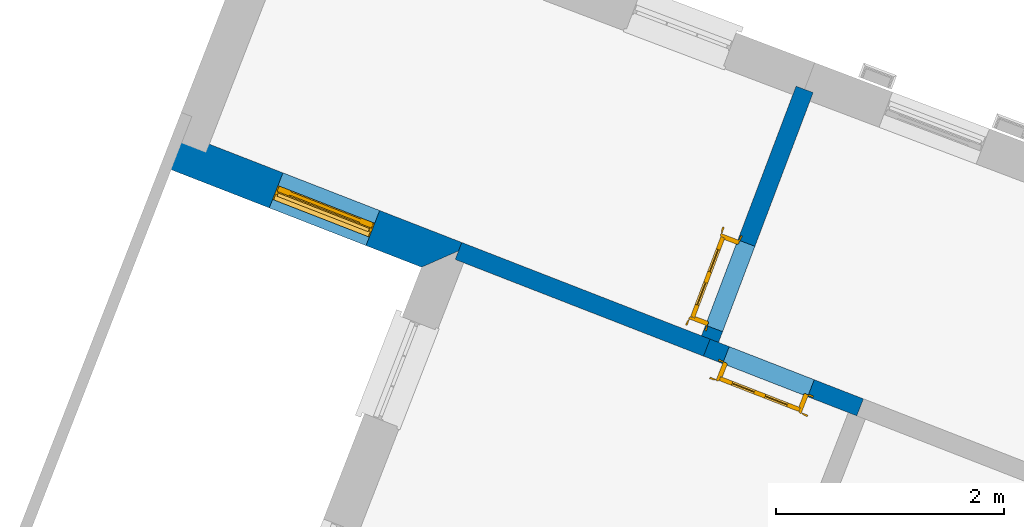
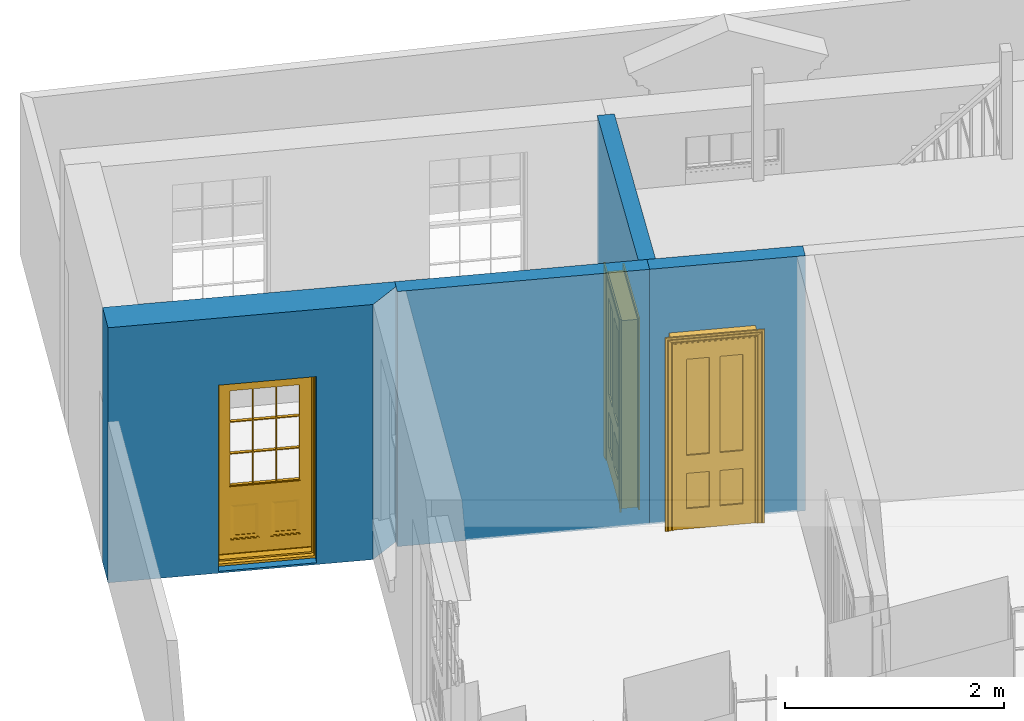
# One storey, part 5 of 10: 4 walls, 3 doors, 3 openings.
"""IFC4 building model written with IfcOpenShell, lengths in metres."""

import ifcopenshell
import ifcopenshell.guid

model = None  # the IFC model being written
_history = None  # IfcOwnerHistory: only IFC2X3 demands one
_inside = {}  # id of a spatial element -> (the spatial element, [elements in it])
_under = {}  # id of a project, library or spatial element -> (it, [spatial elements below it])
_declared = {}  # id of a project -> (the project, [libraries it declares])
_typed = {}  # id of a type object -> (the type object, [elements of that type])
_made_of = {}  # id of a material, layer set ... -> (it, [elements and type objects made of it])


def new_model(schema):
    """Start an empty IFC model of exactly this schema.

    Asked for "IFC4X3", IfcOpenShell would pick the latest addendum, in which some entities
    have other attributes; the version numbers below select the first issue.
    IFC2X3 requires an IfcOwnerHistory on every rooted entity: one is made here for all.
    """
    global model, _history
    if schema == "IFC4X3":
        model = ifcopenshell.file(schema_version=(4, 3, 0, 0))
    else:
        model = ifcopenshell.file(schema=schema)
    _inside.clear()
    _under.clear()
    _declared.clear()
    _typed.clear()
    _made_of.clear()
    _history = None
    if model.schema == "IFC2X3":
        org = make("IfcOrganization", Name="unknown")
        user = make(
            "IfcPersonAndOrganization",
            ThePerson=make("IfcPerson", FamilyName="unknown"),
            TheOrganization=org,
        )
        app = make(
            "IfcApplication",
            ApplicationDeveloper=org,
            Version="unknown",
            ApplicationFullName="unknown",
            ApplicationIdentifier="unknown",
        )
        _history = make(
            "IfcOwnerHistory",
            OwningUser=user,
            OwningApplication=app,
            ChangeAction="ADDED",
            CreationDate=0,
        )
    return model


def make(cls, **values):
    """One entity of the class cls with the attributes given. An attribute that is None is left unset."""
    return model.create_entity(
        cls, **{name: value for name, value in values.items() if value is not None}
    )


def rooted(cls, **values):
    """An entity with a GlobalId (a new one), such as an element, a storey or a relation."""
    return make(cls, GlobalId=ifcopenshell.guid.new(), OwnerHistory=_history, **values)


def si_unit(unit_type, name, prefix=None):
    """IfcSIUnit, for example si_unit("LENGTHUNIT", "METRE", prefix="MILLI")."""
    return make("IfcSIUnit", UnitType=unit_type, Prefix=prefix, Name=name)


def assignment(units):
    """IfcUnitAssignment: the units of a project."""
    return None if units is None else make("IfcUnitAssignment", Units=units)


def point(xyz):
    """IfcCartesianPoint."""
    return None if xyz is None else make("IfcCartesianPoint", Coordinates=xyz)


def direction(xyz):
    """IfcDirection."""
    return None if xyz is None else make("IfcDirection", DirectionRatios=xyz)


def frame(location, z_axis=None, x_axis=None):
    """IfcAxis2Placement3D, a coordinate frame: its origin and axes. An axis left out is left unset."""
    return make(
        "IfcAxis2Placement3D",
        Location=point(location),
        Axis=direction(z_axis),
        RefDirection=direction(x_axis),
    )


def origin():
    """The frame at (0, 0, 0) with its axes left unset."""
    return frame((0.0, 0.0, 0.0))


def origin_with_axes():
    """The frame at (0, 0, 0) with the z axis (0, 0, 1) and the x axis (1, 0, 0) written out."""
    return frame((0.0, 0.0, 0.0), z_axis=(0.0, 0.0, 1.0), x_axis=(1.0, 0.0, 0.0))


def place(relative_to, where):
    """IfcLocalPlacement: puts the frame where relative to a parent placement (None: the world)."""
    return make(
        "IfcLocalPlacement", PlacementRelTo=relative_to, RelativePlacement=where
    )


def context(
    kind, dimensions, precision=None, world=None, true_north=None, identifier=None
):
    """IfcGeometricRepresentationContext, for example the 3D "Model" context."""
    return make(
        "IfcGeometricRepresentationContext",
        ContextIdentifier=identifier,
        ContextType=kind,
        CoordinateSpaceDimension=dimensions,
        Precision=precision,
        WorldCoordinateSystem=world,
        TrueNorth=true_north,
    )


def subcontext(parent, identifier, kind, view, scale=None):
    """IfcGeometricRepresentationSubContext, for example "Body" below "Model"."""
    return make(
        "IfcGeometricRepresentationSubContext",
        ContextIdentifier=identifier,
        ContextType=kind,
        ParentContext=parent,
        TargetScale=scale,
        TargetView=view,
    )


def project(units=None, contexts=None):
    """IfcProject with its units and contexts."""
    return rooted(
        "IfcProject",
        Name="project",
        RepresentationContexts=contexts,
        UnitsInContext=assignment(units),
    )


def spatial(cls, under=None, at=None, **own):
    """A site, building, storey or space (cls), placed at a placement, below another one or the project."""
    s = rooted(cls, ObjectPlacement=at, **own)
    if under is not None:
        _under.setdefault(under.id(), (under, []))[1].append(s)
    return s


def polyline(points):
    """IfcPolyline through the points."""
    return make("IfcPolyline", Points=[point(p) for p in points])


def outline(outer, holes=None, kind="AREA"):
    """IfcArbitraryClosedProfileDef: a profile drawn as a closed curve; with holes, ...WithVoids."""
    if holes is None:
        return make("IfcArbitraryClosedProfileDef", ProfileType=kind, OuterCurve=outer)
    return make(
        "IfcArbitraryProfileDefWithVoids",
        ProfileType=kind,
        OuterCurve=outer,
        InnerCurves=holes,
    )


def extrude(swept, where, along, depth):
    """IfcExtrudedAreaSolid: the profile swept, set in the frame where, extruded along a direction by depth."""
    return make(
        "IfcExtrudedAreaSolid",
        SweptArea=swept,
        Position=where,
        ExtrudedDirection=direction(along),
        Depth=depth,
    )


def faces_of(points, faces, orient=None, outer=None):
    """IfcFace entities. A face is a list of loops; a loop is a list of indices into points, from 0.

    orient and outer hold one flag for each loop. By default every Orientation is true, the
    first loop of a face is its IfcFaceOuterBound and the others are IfcFaceBound.
    """
    made = []
    for i, loops in enumerate(faces):
        bounds = []
        for j, loop in enumerate(loops):
            is_outer = j == 0 if outer is None else outer[i][j]
            bounds.append(
                make(
                    "IfcFaceOuterBound" if is_outer else "IfcFaceBound",
                    Bound=make("IfcPolyLoop", Polygon=[points[k] for k in loop]),
                    Orientation=True if orient is None else orient[i][j],
                )
            )
        made.append(make("IfcFace", Bounds=bounds))
    return made


def faceted_brep(points, faces, orient=None, outer=None, voids=None):
    """IfcFacetedBrep: a solid bounded by flat faces; with voids (closed shells), ...WithVoids."""
    shared = [point(p) for p in points]
    hull = make("IfcClosedShell", CfsFaces=faces_of(shared, faces, orient, outer))
    if voids is None:
        return make("IfcFacetedBrep", Outer=hull)
    return make(
        "IfcFacetedBrepWithVoids",
        Outer=hull,
        Voids=[
            make(cls, CfsFaces=faces_of(shared, fs, o, b)) for cls, fs, o, b in voids
        ],
    )


def shape(context_of_items, identifier, shape_type, items):
    """IfcShapeRepresentation: the items that make up one representation, for example the "Body"."""
    return make(
        "IfcShapeRepresentation",
        ContextOfItems=context_of_items,
        RepresentationIdentifier=identifier,
        RepresentationType=shape_type,
        Items=items,
    )


def source(mapping_origin, context_of_items, identifier, shape_type, items):
    """IfcRepresentationMap: a shape defined once, which mapped items show again and again."""
    return make(
        "IfcRepresentationMap",
        MappingOrigin=mapping_origin,
        MappedRepresentation=shape(context_of_items, identifier, shape_type, items),
    )


def transform(
    local_origin,
    x_axis=None,
    y_axis=None,
    z_axis=None,
    scale=None,
    scale2=None,
    scale3=None,
    uniform=True,
):
    """IfcCartesianTransformationOperator3D, or its non-uniform kind. x_axis, y_axis, z_axis: its Axis1, 2, 3."""
    if uniform:
        return make(
            "IfcCartesianTransformationOperator3D",
            Axis1=direction(x_axis),
            Axis2=direction(y_axis),
            LocalOrigin=point(local_origin),
            Scale=scale,
            Axis3=direction(z_axis),
        )
    return make(
        "IfcCartesianTransformationOperator3DnonUniform",
        Axis1=direction(x_axis),
        Axis2=direction(y_axis),
        LocalOrigin=point(local_origin),
        Scale=scale,
        Axis3=direction(z_axis),
        Scale2=scale2,
        Scale3=scale3,
    )


def mapped(mapping_source, mapping_target):
    """IfcMappedItem: shows the shape of a source again, moved by a transform."""
    return make(
        "IfcMappedItem", MappingSource=mapping_source, MappingTarget=mapping_target
    )


def material(Name=None, Category=None):
    """IfcMaterial."""
    return make("IfcMaterial", Name=Name, Category=Category)


def layer(
    of_material, thickness, ventilated=None, Name=None, Category=None, Priority=None
):
    """IfcMaterialLayer: one layer of a wall or slab, of a material (None: an air gap)."""
    return make(
        "IfcMaterialLayer",
        Material=of_material,
        LayerThickness=thickness,
        IsVentilated=ventilated,
        Name=Name,
        Category=Category,
        Priority=Priority,
    )


def layer_set(layers, Name=None):
    """IfcMaterialLayerSet."""
    return make("IfcMaterialLayerSet", MaterialLayers=layers, LayerSetName=Name)


def layer_usage(for_layer_set, set_direction, sense, offset, extent=None):
    """IfcMaterialLayerSetUsage: how a layer set lies in its element."""
    return make(
        "IfcMaterialLayerSetUsage",
        ForLayerSet=for_layer_set,
        LayerSetDirection=set_direction,
        DirectionSense=sense,
        OffsetFromReferenceLine=offset,
        ReferenceExtent=extent,
    )


def made_of(thing, what):
    """Note that an element or type object is made of a material, layer set ...; save() writes the relation."""
    if what is not None:
        _made_of.setdefault(what.id(), (what, []))[1].append(thing)
    return thing


def type_object(cls, material=None, **own):
    """A type object (cls), such as IfcWallType, which elements share."""
    return made_of(rooted(cls, **own), material)


def type_shapes(of_type, sources):
    """Give a type object the sources (RepresentationMaps) that its elements show as mapped items."""
    of_type.RepresentationMaps = sources


def element(
    cls,
    number,
    at=None,
    inside=None,
    cuts=None,
    type_object=None,
    material=None,
    context=None,
    identifier="Body",
    shape_type=None,
    held_by="IfcProductDefinitionShape",
    body=None,
    shapes=None,
    **own,
):
    """One element of the class cls, such as IfcWall. Its Tag is "e" and its number.

    at: its placement. inside: the storey or other place that contains it. cuts: it is an
    opening in that element (IfcRelVoidsElement). A single representation is given by context,
    identifier, shape_type and body (its items); several are given by shapes. held_by: the class
    of the entity that holds the representations. save() writes the other relations.
    """
    e = rooted(cls, Tag="e%d" % number, ObjectPlacement=at, **own)
    if body is not None:
        shapes = [shape(context, identifier, shape_type, body)]
    if shapes is not None:
        e.Representation = make(held_by, Representations=shapes)
    if inside is not None:
        _inside.setdefault(inside.id(), (inside, []))[1].append(e)
    if cuts is not None:
        rooted(
            "IfcRelVoidsElement", RelatingBuildingElement=cuts, RelatedOpeningElement=e
        )
    if type_object is not None:
        _typed.setdefault(type_object.id(), (type_object, []))[1].append(e)
    return made_of(e, material)


def fill(opening, filler):
    """IfcRelFillsElement: the door or window that sits in an opening."""
    return rooted(
        "IfcRelFillsElement",
        RelatingOpeningElement=opening,
        RelatedBuildingElement=filler,
    )


def aggregate(whole, parts):
    """IfcRelAggregates: a whole, such as a stair, and the parts it consists of."""
    return rooted("IfcRelAggregates", RelatingObject=whole, RelatedObjects=parts)


def save(model, path):
    """Write the relations noted so far, then the file.

    IfcRelAggregates (storeys below a building ...), IfcRelContainedInSpatialStructure (elements
    in a storey), IfcRelDefinesByType, IfcRelAssociatesMaterial and IfcRelDeclares: one each for
    every whole, place, type object, material and project.
    """
    for whole, parts in _under.values():
        aggregate(whole, parts)
    for where, things in _inside.values():
        rooted(
            "IfcRelContainedInSpatialStructure",
            RelatedElements=things,
            RelatingStructure=where,
        )
    for kind, things in _typed.values():
        rooted("IfcRelDefinesByType", RelatedObjects=things, RelatingType=kind)
    for what, things in _made_of.values():
        rooted("IfcRelAssociatesMaterial", RelatedObjects=things, RelatingMaterial=what)
    for by, libraries in _declared.values():
        rooted("IfcRelDeclares", RelatingContext=by, RelatedDefinitions=libraries)
    model.write(path)


model = new_model("IFC4")

# Units and contexts
model_context = context("Model", 3, world=origin_with_axes())
body_context = subcontext(model_context, "Body", "Model", "MODEL_VIEW")
ifc_project = project(units=[si_unit("PLANEANGLEUNIT", "RADIAN"), si_unit("MASSUNIT", "GRAM", prefix="KILO"), si_unit("FORCEUNIT", "NEWTON", prefix="KILO"), si_unit("LENGTHUNIT", "METRE"), si_unit("AREAUNIT", "SQUARE_METRE"), si_unit("VOLUMEUNIT", "CUBIC_METRE")], contexts=[model_context, model_context])

# Sites, building, storey
site_1_placement = place(None, origin_with_axes())
site_1 = spatial("IfcSite", under=ifc_project, at=site_1_placement, Name="Tamar")
site_2_placement = place(site_1_placement, origin_with_axes())
site_2 = spatial("IfcSite", under=site_1, at=site_2_placement, Name="Site plot-8", CompositionType="ELEMENT")
building_placement = place(None, origin_with_axes())
building = spatial("IfcBuilding", under=site_2, at=building_placement, Name="Building plot-8", CompositionType="ELEMENT")
storey_placement = place(None, frame((0.0, 0.0, 26.0), z_axis=(0.0, 0.0, 1.0), x_axis=(1.0, 0.0, 0.0)))
storey = spatial("IfcBuildingStorey", under=building, at=storey_placement, Name="plot-8 0", CompositionType="ELEMENT", Elevation=26.0)

# Wall, opening, door
ifc_material_1 = material(Name="Masonry")
ifc_layer_1 = layer(ifc_material_1, 0.33, ventilated=False)
ifc_layer_set_1 = layer_set([ifc_layer_1], Name="exterior_0.08_0.25")
ifc_layer_usage_1 = layer_usage(ifc_layer_set_1, "AXIS2", "POSITIVE", -0.25)
wall_type_1 = type_object("IfcWallType", Name="exterior_0.08_0.25", PredefinedType="SOLIDWALL", material=ifc_layer_set_1)
wall_1_placement = place(storey_placement, frame((221.692269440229, 310.215266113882, 0.0), z_axis=(0.0, 0.0, 1.0), x_axis=(0.93186385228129, -0.362808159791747, 0.0)))
wall_1 = element("IfcWall", 1, at=wall_1_placement, inside=storey, type_object=wall_type_1, material=ifc_layer_usage_1, Name="exterior", context=body_context, shape_type="SweptSolid", body=[
    extrude(outline(polyline([(-0.249999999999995, 0.0799999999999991), (-0.249999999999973, -0.250000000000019), (2.20498617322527, -0.25000000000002), (2.53498617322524, 0.0800000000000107), (-0.249999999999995, 0.0799999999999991)])), origin_with_axes(), (0.0, 0.0, 1.0), 2.85),
])
opening_1_placement = place(wall_1_placement, frame((0.772493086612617, 0.0, 0.0199999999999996)))
opening_1 = element("IfcOpeningElement", 2, at=opening_1_placement, cuts=wall_1, Name="My Opening", ObjectType="Opening", context=body_context, shape_type="SweptSolid", body=[
    extrude(outline(polyline([(0.0, -0.270000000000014), (0.91000000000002, -0.270000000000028), (0.910000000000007, 1.10000000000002), (-1.22124532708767e-14, 1.10000000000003), (0.0, -0.270000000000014)])), origin_with_axes(), (0.0, 0.0, 1.0), 2.08),
])
door_type_1 = type_object("IfcDoorType", Name="door_panelled", OperationType="SINGLE_SWING_LEFT", PredefinedType="NOTDEFINED")
shared_shape_1 = source(origin(), body_context, "Body", "Brep", [
    faceted_brep([(0.545, 0.195, 0.265), (0.745, 0.195, 0.265), (0.745, 0.2, 0.265), (0.545, 0.2, 0.265), (0.745, 0.2, 0.58), (0.545, 0.2, 0.58), (0.545, 0.195, 0.58), (0.515, 0.19, 0.235), (0.775, 0.19, 0.235), (0.745, 0.195, 0.58), (0.515, 0.19, 0.61), (0.515, 0.185, 0.235), (0.775, 0.185, 0.235), (0.775, 0.19, 0.61), (0.515, 0.185, 0.61), (0.785, 0.185, 0.225), (0.505, 0.185, 0.225), (0.775, 0.185, 0.61), (0.505, 0.185, 0.62), (0.785, 0.185, 0.62), (0.505, 0.18, 0.225), (0.785, 0.18, 0.225), (0.505, 0.18, 0.62), (0.785, 0.18, 0.62), (0.883, 0.18, 0.075), (0.898, 0.18, 0.075), (0.405, 0.18, 0.62), (0.405, 0.18, 0.225), (0.027, 0.18, 0.075), (0.785, 0.18, 0.82), (0.125, 0.18, 0.82), (0.405, 0.185, 0.62), (0.405, 0.185, 0.225), (0.898, 0.18, 2.068), (0.027, 0.17, 0.075), (0.883, 0.17, 0.075), (0.125, 0.18, 0.225), (0.012, 0.18, 0.075), (0.785, 0.19, 0.82), (0.125, 0.19, 0.82), (0.125, 0.18, 0.62), (0.125, 0.185, 0.62), (0.395, 0.185, 0.61), (0.395, 0.185, 0.235), (0.125, 0.185, 0.225), (0.785, 0.18, 1.895), (0.027, 0.14, 0.045), (0.883, 0.14, 0.045), (0.558333, 0.19, 0.83), (0.351667, 0.19, 0.83), (0.125, 0.18, 1.895), (0.125, 0.19, 1.895), (0.785, 0.19, 1.895), (0.012, 0.18, 2.068), (0.135, 0.185, 0.61), (0.395, 0.19, 0.61), (0.395, 0.19, 0.235), (0.135, 0.185, 0.235), (0.027, 0.14, 0.027), (0.883, 0.14, 0.027), (0.568333, 0.19, 0.83), (0.558333, 0.22, 0.83), (0.351667, 0.22, 0.83), (0.341667, 0.19, 0.83), (0.135, 0.19, 1.185), (0.135, 0.19, 1.53), (0.775, 0.19, 1.53), (0.775, 0.19, 1.185), (0.135, 0.19, 0.61), (0.365, 0.195, 0.58), (0.365, 0.195, 0.265), (0.135, 0.19, 0.235), (0.568333, 0.19, 1.175), (0.558333, 0.19, 1.175), (0.775, 0.19, 0.83), (0.558333, 0.22, 1.175), (0.785, 0.22, 0.82), (0.125, 0.22, 0.82), (0.351667, 0.22, 1.175), (0.351667, 0.19, 1.175), (0.341667, 0.19, 1.175), (0.135, 0.19, 0.83), (0.135, 0.19, 1.175), (0.135, 0.22, 1.185), (0.135, 0.22, 1.53), (0.135, 0.19, 1.54), (0.351667, 0.19, 1.885), (0.558333, 0.19, 1.885), (0.775, 0.22, 1.53), (0.775, 0.22, 1.185), (0.775, 0.19, 1.175), (0.775, 0.19, 1.54), (0.165, 0.195, 0.58), (0.365, 0.2, 0.58), (0.365, 0.2, 0.265), (0.165, 0.195, 0.265), (0.568333, 0.22, 0.83), (0.568333, 0.22, 1.175), (0.568333, 0.19, 1.185), (0.558333, 0.19, 1.185), (0.775, 0.22, 0.83), (0.785, 0.23, 0.82), (0.125, 0.23, 0.82), (0.341667, 0.22, 0.83), (0.341667, 0.22, 1.175), (0.351667, 0.19, 1.185), (0.341667, 0.19, 1.185), (0.135, 0.22, 0.83), (0.341667, 0.22, 1.185), (0.125, 0.22, 1.895), (0.341667, 0.22, 1.53), (0.341667, 0.19, 1.53), (0.135, 0.19, 1.885), (0.341667, 0.19, 1.54), (0.341667, 0.19, 1.885), (0.558333, 0.22, 1.885), (0.351667, 0.22, 1.885), (0.568333, 0.19, 1.885), (0.785, 0.22, 1.895), (0.568333, 0.22, 1.185), (0.568333, 0.19, 1.53), (0.568333, 0.22, 1.53), (0.568333, 0.19, 1.54), (0.775, 0.19, 1.885), (0.165, 0.2, 0.58), (0.165, 0.2, 0.265), (0.775, 0.22, 1.175), (0.558333, 0.19, 1.53), (0.351667, 0.22, 1.185), (0.558333, 0.22, 1.185), (0.505, 0.23, 0.62), (0.405, 0.23, 0.62), (0.125, 0.23, 1.895), (0.785, 0.23, 1.895), (0.351667, 0.19, 1.53), (0.135, 0.22, 1.175), (0.135, 0.22, 1.54), (0.341667, 0.22, 1.54), (0.135, 0.22, 1.885), (0.351667, 0.19, 1.54), (0.558333, 0.22, 1.54), (0.558333, 0.19, 1.54), (0.351667, 0.22, 1.54), (0.775, 0.22, 1.54), (0.568333, 0.22, 1.54), (0.775, 0.22, 1.885), (0.558333, 0.22, 1.53), (0.405, 0.23, 0.225), (0.505, 0.23, 0.225), (0.125, 0.23, 0.62), (0.785, 0.23, 0.62), (0.012, 0.23, 2.068), (0.898, 0.23, 2.068), (0.351667, 0.22, 1.53), (0.341667, 0.22, 1.885), (0.568333, 0.22, 1.885), (0.405, 0.225, 0.225), (0.405, 0.225, 0.62), (0.505, 0.225, 0.62), (0.505, 0.225, 0.225), (0.898, 0.23, 0.027), (0.012, 0.23, 0.027), (0.125, 0.225, 0.62), (0.785, 0.225, 0.62), (0.395, 0.225, 0.235), (0.395, 0.225, 0.61), (0.125, 0.23, 0.225), (0.125, 0.225, 0.225), (0.515, 0.225, 0.61), (0.515, 0.225, 0.235), (0.785, 0.23, 0.225), (0.785, 0.225, 0.225), (0.135, 0.225, 0.61), (0.775, 0.225, 0.61), (0.135, 0.225, 0.235), (0.395, 0.22, 0.235), (0.395, 0.22, 0.61), (0.515, 0.22, 0.61), (0.515, 0.22, 0.235), (0.775, 0.225, 0.235), (0.135, 0.22, 0.61), (0.775, 0.22, 0.61), (0.135, 0.22, 0.235), (0.365, 0.215, 0.265), (0.365, 0.215, 0.58), (0.545, 0.215, 0.58), (0.545, 0.215, 0.265), (0.775, 0.22, 0.235), (0.165, 0.215, 0.58), (0.745, 0.215, 0.58), (0.165, 0.215, 0.265), (0.365, 0.21, 0.58), (0.365, 0.21, 0.265), (0.545, 0.21, 0.58), (0.545, 0.21, 0.265), (0.745, 0.215, 0.265), (0.165, 0.21, 0.58), (0.745, 0.21, 0.58), (0.165, 0.21, 0.265), (0.745, 0.21, 0.265), (0.885, 0.178, 0.025), (0.025, 0.178, 0.025), (0.025, 0.15, 0.025), (0.885, 0.15, 0.025), (0.9, 0.23, 0.025), (0.01, 0.23, 0.025), (0.9, 0.178, 0.025), (0.91, 0.23, 0.0), (0.0, 0.23, 0.0), (0.01, 0.178, 0.025), (0.9, 0.178, 2.07), (0.9, 0.23, 2.07), (0.885, 0.178, 2.055), (0.91, 0.23, 2.08), (0.01, 0.23, 2.07), (0.0, 0.23, 2.08), (0.01, 0.178, 2.07), (0.025, 0.178, 2.055), (0.0, 0.1, 2.08), (0.91, 0.1, 2.08), (0.01, 0.1, 2.07), (0.9, 0.1, 2.07), (0.01, 0.15, 2.07), (0.9, 0.15, 2.07), (0.0, 0.1, 0.0), (0.91, 0.1, 0.0), (0.01, 0.1, 0.025), (0.9, 0.1, 0.025), (0.01, 0.15, 0.025), (0.025, 0.15, 2.055), (0.9, 0.15, 0.025), (0.885, 0.15, 2.055), (0.898, 0.18, 0.027), (0.012, 0.18, 0.027), (0.883, 0.18, 0.027), (0.027, 0.18, 0.027)], [[[0, 1, 2, 3]], [[2, 4, 5, 3]], [[0, 3, 5, 6]], [[1, 0, 7, 8]], [[9, 4, 2, 1]], [[9, 6, 5, 4]], [[0, 6, 10, 7]], [[8, 7, 11, 12]], [[8, 13, 9, 1]], [[13, 10, 6, 9]], [[7, 10, 14, 11]], [[15, 12, 11, 16]], [[12, 17, 13, 8]], [[17, 14, 10, 13]], [[18, 16, 11, 14]], [[15, 19, 17, 12]], [[15, 16, 20, 21]], [[14, 17, 19, 18]], [[16, 18, 22, 20]], [[21, 23, 19, 15]], [[24, 25, 21, 20]], [[23, 22, 18, 19]], [[20, 22, 26, 27]], [[23, 21, 25]], [[28, 24, 20, 27]], [[22, 23, 29]], [[29, 30, 26, 22]], [[27, 26, 31, 32]], [[23, 25, 33, 29]], [[34, 35, 24, 28]], [[28, 27, 36, 37]], [[38, 39, 30, 29]], [[26, 30, 40]], [[26, 40, 41, 31]], [[42, 43, 32, 31]], [[32, 44, 36, 27]], [[33, 45, 29]], [[46, 47, 35, 34]], [[36, 40, 37]], [[39, 38, 48, 49]], [[50, 30, 39, 51]], [[29, 45, 52, 38]], [[53, 37, 40, 30]], [[44, 41, 40, 36]], [[31, 41, 54, 42]], [[43, 42, 55, 56]], [[57, 44, 32, 43]], [[50, 45, 33, 53]], [[47, 46, 58, 59]], [[60, 48, 38]], [[49, 48, 61, 62]], [[49, 63, 39]], [[50, 53, 30]], [[51, 39, 64, 65]], [[45, 50, 51, 52]], [[66, 67, 38, 52]], [[57, 54, 41, 44]], [[42, 54, 68, 55]], [[56, 55, 69, 70]], [[56, 71, 57, 43]], [[60, 72, 73, 48]], [[60, 38, 74]], [[48, 73, 75, 61]], [[76, 77, 62, 61]], [[62, 78, 79, 49]], [[49, 79, 80, 63]], [[63, 81, 39]], [[82, 64, 39]], [[65, 64, 83, 84]], [[85, 51, 65]], [[52, 51, 86, 87]], [[88, 89, 67, 66]], [[90, 38, 67]], [[91, 66, 52]], [[71, 68, 54, 57]], [[55, 68, 92, 69]], [[69, 93, 94, 70]], [[70, 95, 71, 56]], [[96, 97, 72, 60]], [[73, 72, 98, 99]], [[74, 38, 90]], [[100, 96, 60, 74]], [[75, 73, 79, 78]], [[61, 75, 97, 96]], [[101, 102, 77, 76]], [[77, 103, 62]], [[96, 76, 61]], [[103, 104, 78, 62]], [[80, 79, 105, 106]], [[63, 80, 104, 103]], [[81, 63, 103, 107]], [[81, 82, 39]], [[106, 64, 82, 80]], [[106, 108, 83, 64]], [[84, 83, 77, 109]], [[110, 111, 65, 84]], [[112, 51, 85]], [[113, 85, 65, 111]], [[114, 86, 51]], [[115, 87, 86, 116]], [[117, 52, 87]], [[118, 76, 89, 88]], [[119, 98, 67, 89]], [[120, 121, 88, 66]], [[67, 98, 72, 90]], [[91, 122, 120, 66]], [[91, 52, 123]], [[95, 92, 68, 71]], [[69, 92, 124, 93]], [[94, 93, 124, 125]], [[94, 125, 95, 70]], [[72, 97, 126, 90]], [[127, 99, 98, 120]], [[99, 105, 79, 73]], [[74, 90, 126, 100]], [[96, 100, 76]], [[128, 129, 75, 78]], [[97, 75, 129, 119]], [[130, 131, 102, 101]], [[109, 77, 102, 132]], [[133, 101, 76, 118]], [[77, 107, 103]], [[78, 104, 108, 128]], [[111, 106, 105, 134]], [[104, 80, 82, 135]], [[107, 135, 82, 81]], [[110, 108, 106, 111]], [[104, 135, 83, 108]], [[83, 135, 77]], [[136, 84, 109]], [[110, 84, 136, 137]], [[114, 51, 112]], [[85, 136, 138, 112]], [[113, 137, 136, 85]], [[111, 134, 139, 113]], [[86, 114, 113, 139]], [[140, 141, 87, 115]], [[139, 142, 116, 86]], [[109, 118, 115, 116]], [[117, 123, 52]], [[117, 87, 141, 122]], [[126, 89, 76]], [[143, 118, 88]], [[120, 98, 119, 121]], [[119, 89, 126, 97]], [[144, 143, 88, 121]], [[144, 122, 91, 143]], [[127, 120, 122, 141]], [[143, 91, 123, 145]], [[124, 92, 95, 125]], [[146, 129, 99, 127]], [[99, 129, 128, 105]], [[100, 126, 76]], [[121, 119, 129, 146]], [[147, 131, 130, 148]], [[131, 149, 102]], [[130, 101, 150]], [[102, 151, 132]], [[118, 109, 132, 133]], [[101, 133, 152]], [[107, 77, 135]], [[153, 128, 108, 110]], [[134, 105, 128, 153]], [[109, 138, 136]], [[153, 110, 137, 142]], [[154, 114, 112, 138]], [[137, 113, 114, 154]], [[141, 139, 134, 127]], [[141, 140, 142, 139]], [[144, 140, 115, 155]], [[142, 137, 154, 116]], [[155, 115, 118]], [[116, 154, 109]], [[117, 155, 145, 123]], [[122, 144, 155, 117]], [[143, 145, 118]], [[121, 146, 140, 144]], [[146, 127, 134, 153]], [[156, 157, 131, 147]], [[148, 130, 158, 159]], [[148, 160, 161, 147]], [[157, 162, 149, 131]], [[161, 151, 102, 149]], [[101, 152, 160, 150]], [[163, 158, 130, 150]], [[151, 152, 133, 132]], [[154, 138, 109]], [[142, 140, 146, 153]], [[145, 155, 118]], [[157, 156, 164, 165]], [[147, 166, 167, 156]], [[168, 169, 159, 158]], [[170, 148, 159, 171]], [[148, 170, 160]], [[166, 147, 161]], [[172, 162, 157, 165]], [[166, 149, 162, 167]], [[166, 161, 149]], [[150, 160, 170]], [[163, 173, 168, 158]], [[171, 163, 150, 170]], [[174, 164, 156, 167]], [[175, 176, 165, 164]], [[169, 168, 177, 178]], [[171, 159, 169, 179]], [[167, 162, 172, 174]], [[176, 180, 172, 165]], [[179, 173, 163, 171]], [[181, 177, 168, 173]], [[164, 174, 182, 175]], [[183, 184, 176, 175]], [[178, 177, 185, 186]], [[179, 169, 178, 187]], [[174, 172, 180, 182]], [[184, 188, 180, 176]], [[187, 181, 173, 179]], [[189, 185, 177, 181]], [[175, 182, 190, 183]], [[191, 184, 183, 192]], [[185, 193, 194, 186]], [[187, 178, 186, 195]], [[182, 180, 188, 190]], [[191, 196, 188, 184]], [[195, 189, 181, 187]], [[197, 193, 185, 189]], [[183, 190, 198, 192]], [[198, 196, 191, 192]], [[194, 193, 197, 199]], [[195, 186, 194, 199]], [[188, 196, 198, 190]], [[197, 189, 195, 199]], [[200, 201, 202, 203]], [[201, 200, 204, 205]], [[206, 204, 200]], [[204, 207, 208, 205]], [[209, 201, 205]], [[210, 211, 204, 206]], [[206, 200, 212, 210]], [[211, 213, 207, 204]], [[214, 205, 208, 215]], [[216, 217, 201, 209]], [[205, 214, 216, 209]], [[216, 214, 211, 210]], [[210, 212, 217, 216]], [[214, 215, 213, 211]], [[218, 219, 213, 215]], [[219, 218, 220, 221]], [[221, 220, 222, 223]], [[215, 208, 224, 218]], [[225, 224, 208, 207]], [[224, 226, 220, 218]], [[224, 225, 227, 226]], [[219, 225, 207, 213]], [[228, 222, 220, 226]], [[219, 221, 227, 225]], [[226, 227, 203, 202]], [[202, 229, 222, 228]], [[228, 226, 202]], [[227, 221, 223, 230]], [[230, 203, 227]], [[217, 229, 202, 201]], [[231, 223, 222, 229]], [[230, 223, 231, 203]], [[231, 229, 217, 212]], [[212, 200, 203, 231]], [[33, 152, 151, 53]], [[25, 160, 152, 33]], [[161, 37, 53, 151]], [[232, 160, 25]], [[161, 233, 37]], [[160, 232, 234]], [[24, 234, 232, 25]], [[233, 161, 235]], [[37, 233, 235, 28]], [[161, 160, 234, 235]], [[35, 47, 234, 24]], [[28, 235, 46, 34]], [[58, 235, 234, 59]], [[59, 234, 47]], [[58, 46, 235]]]),
])
type_shapes(door_type_1, [shared_shape_1])
door_1_placement = place(storey_placement, frame((222.314169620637, 309.68339607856, 0.0199999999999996), z_axis=(0.0, 0.0, 1.0), x_axis=(0.847996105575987, -0.33015542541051, 0.0)))
door_1 = element("IfcDoor", 3, at=door_1_placement, inside=storey, type_object=door_type_1, Name="bedroom outside door", OverallHeight=2.08, OverallWidth=0.91, context=body_context, shape_type="MappedRepresentation", body=[
    mapped(shared_shape_1, transform((0.0, 0.0, 0.0), scale=1.0)),
])
fill(opening_1, door_1)

# Wall
ifc_material_2 = material(Name="Masonry")
ifc_layer_2 = layer(ifc_material_2, 0.16, ventilated=False)
ifc_layer_set_2 = layer_set([ifc_layer_2], Name="interior_0.08_0.08")
ifc_layer_usage_2 = layer_usage(ifc_layer_set_2, "AXIS2", "POSITIVE", -0.08)
wall_type_2 = type_object("IfcWallType", Name="interior_0.08_0.08", PredefinedType="SOLIDWALL", material=ifc_layer_set_2)
wall_2_placement = place(storey_placement, frame((226.156574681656, 308.477151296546, 0.0), z_axis=(0.0, 0.0, 1.0), x_axis=(-0.931863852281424, 0.362808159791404, 0.0)))
element("IfcWall", 4, at=wall_2_placement, inside=storey, type_object=wall_type_2, material=ifc_layer_usage_2, Name="interior", context=body_context, shape_type="SweptSolid", body=[
    extrude(outline(polyline([(-3.97414073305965e-15, 0.0799999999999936), (4.01946504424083e-15, -0.0799999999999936), (2.3357407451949, -0.0799999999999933), (2.3357407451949, 0.079999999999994), (-3.97414073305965e-15, 0.0799999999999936)])), origin_with_axes(), (0.0, 0.0, 1.0), 2.85),
])

# Wall, opening, door
wall_3_placement = place(storey_placement, frame((227.500590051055, 307.953877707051, 0.0), z_axis=(0.0, 0.0, 1.0), x_axis=(-0.931863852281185, 0.362808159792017, 0.0)))
wall_3 = element("IfcWall", 5, at=wall_3_placement, inside=storey, type_object=wall_type_2, material=ifc_layer_usage_2, Name="interior", context=body_context, shape_type="SweptSolid", body=[
    extrude(outline(polyline([(-3.68992363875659e-15, 0.0800000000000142), (3.69972081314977e-15, -0.0800000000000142), (1.44228726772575, -0.0800000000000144), (1.44228726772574, 0.080000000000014), (-3.68992363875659e-15, 0.0800000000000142)])), origin_with_axes(), (0.0, 0.0, 1.0), 2.85),
])
opening_2_placement = place(wall_3_placement, frame((0.462287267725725, 0.0, 0.0199999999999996)))
opening_2 = element("IfcOpeningElement", 6, at=opening_2_placement, cuts=wall_3, Name="My Opening", ObjectType="Opening", context=body_context, shape_type="SweptSolid", body=[
    extrude(outline(polyline([(0.0, -0.0999999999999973), (0.800000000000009, -0.100000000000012), (0.800000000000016, 1.10000000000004), (6.38378239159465e-15, 1.10000000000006), (0.0, -0.0999999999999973)])), origin_with_axes(), (0.0, 0.0, 1.0), 2.1),
])
door_type_2 = type_object("IfcDoorType", Name="door_inside", OperationType="SINGLE_SWING_LEFT", PredefinedType="NOTDEFINED")
shared_shape_2 = source(origin(), body_context, "Body", "Brep", [
    faceted_brep([(0.773, 0.33, 1.895), (0.66, 0.33, 1.895), (0.66, 0.33, 2.073), (0.773, 0.33, 2.073), (0.773, 0.33, 0.82), (0.66, 0.33, 0.82), (0.45, 0.33, 1.895), (0.45, 0.33, 2.073), (0.773, 0.33, 0.62), (0.66, 0.33, 0.62), (0.66, 0.315, 0.82), (0.66, 0.315, 1.895), (0.45, 0.315, 1.895), (0.35, 0.33, 1.895), (0.35, 0.33, 2.073), (0.773, 0.33, 0.225), (0.66, 0.33, 0.225), (0.45, 0.33, 0.62), (0.45, 0.33, 0.82), (0.45, 0.315, 0.82), (0.35, 0.33, 0.82), (0.14, 0.33, 2.073), (0.14, 0.33, 1.895), (0.773, 0.33, 0.0), (0.66, 0.33, 0.0), (0.66, 0.315, 0.225), (0.66, 0.315, 0.62), (0.45, 0.315, 0.62), (0.35, 0.33, 0.62), (0.35, 0.315, 0.82), (0.35, 0.315, 1.895), (0.14, 0.315, 1.895), (0.027, 0.33, 2.073), (0.027, 0.33, 1.895), (0.773, 0.292, 0.0), (0.66, 0.292, 0.0), (0.45, 0.33, 0.0), (0.45, 0.33, 0.225), (0.45, 0.315, 0.225), (0.35, 0.33, 0.225), (0.14, 0.33, 0.82), (0.14, 0.33, 0.62), (0.14, 0.315, 0.82), (0.027, 0.33, 0.82), (0.773, 0.292, 0.225), (0.66, 0.292, 0.225), (0.45, 0.292, 0.0), (0.35, 0.33, 0.0), (0.35, 0.315, 0.225), (0.35, 0.315, 0.62), (0.14, 0.315, 0.62), (0.027, 0.33, 0.62), (0.773, 0.292, 0.62), (0.66, 0.292, 0.62), (0.45, 0.292, 0.225), (0.35, 0.292, 0.0), (0.14, 0.33, 0.225), (0.14, 0.33, 0.0), (0.14, 0.315, 0.225), (0.027, 0.33, 0.225), (0.773, 0.292, 0.82), (0.66, 0.292, 0.82), (0.66, 0.307, 0.62), (0.66, 0.307, 0.225), (0.45, 0.307, 0.225), (0.35, 0.292, 0.225), (0.14, 0.292, 0.0), (0.027, 0.33, 0.0), (0.773, 0.292, 1.895), (0.66, 0.292, 1.895), (0.45, 0.292, 0.62), (0.45, 0.292, 0.82), (0.45, 0.307, 0.62), (0.35, 0.292, 0.62), (0.14, 0.292, 0.225), (0.027, 0.292, 0.0), (0.773, 0.292, 2.073), (0.66, 0.292, 2.073), (0.66, 0.307, 1.895), (0.66, 0.307, 0.82), (0.45, 0.307, 0.82), (0.35, 0.292, 0.82), (0.35, 0.307, 0.62), (0.35, 0.307, 0.225), (0.14, 0.307, 0.225), (0.027, 0.292, 0.225), (0.45, 0.292, 1.895), (0.45, 0.292, 2.073), (0.45, 0.307, 1.895), (0.35, 0.292, 1.895), (0.14, 0.292, 0.82), (0.14, 0.292, 0.62), (0.14, 0.307, 0.62), (0.027, 0.292, 0.62), (0.35, 0.292, 2.073), (0.35, 0.307, 1.895), (0.35, 0.307, 0.82), (0.14, 0.307, 0.82), (0.027, 0.292, 0.82), (0.14, 0.292, 2.073), (0.14, 0.292, 1.895), (0.14, 0.307, 1.895), (0.027, 0.292, 1.895), (0.027, 0.292, 2.073), (0.02, 0.335, 0.0), (0.005, 0.34, 0.0), (0.005, 0.34, 2.095), (0.02, 0.335, 2.08), (0.02, 0.33, 0.0), (0.0, 0.335, 0.0), (0.0, 0.335, 2.1), (0.795, 0.34, 2.095), (0.78, 0.335, 2.08), (0.02, 0.33, 2.08), (0.0, 0.33, 0.0), (-0.032, 0.345, 0.0), (-0.032, 0.345, 2.132), (0.8, 0.335, 2.1), (0.795, 0.34, 0.0), (0.78, 0.335, 0.0), (0.78, 0.33, 2.08), (0.04, 0.29, 0.0), (0.025, 0.29, 0.0), (0.025, 0.29, 2.075), (0.04, 0.29, 2.06), (-0.04, 0.34, 0.0), (-0.04, 0.34, 2.14), (0.832, 0.345, 2.132), (0.8, 0.335, 0.0), (0.78, 0.33, 0.0), (0.8, 0.33, 0.0), (0.86, 0.33, 0.0), (0.86, 0.33, 2.16), (0.8, 0.33, 2.1), (-0.06, 0.33, 2.16), (0.0, 0.33, 2.1), (-0.06, 0.33, 0.0), (-0.04, 0.345, 0.0), (-0.04, 0.345, 2.14), (0.84, 0.34, 2.14), (0.832, 0.345, 0.0), (0.84, 0.34, 0.0), (0.86, 0.345, 0.0), (0.86, 0.345, 2.16), (-0.06, 0.345, 2.16), (-0.06, 0.345, 0.0), (0.84, 0.345, 0.0), (0.84, 0.345, 2.14), (-0.025, 0.155, 0.0), (-0.025, 0.16, 0.0), (-0.025, 0.16, 2.125), (-0.025, 0.155, 2.125), (-0.017, 0.155, 0.0), (-0.017, 0.155, 2.117), (0.825, 0.16, 2.125), (0.825, 0.155, 2.125), (0.825, 0.155, 0.0), (0.845, 0.155, 0.0), (-0.045, 0.155, 2.145), (-0.045, 0.155, 0.0), (0.845, 0.155, 2.145), (0.015, 0.165, 0.0), (0.015, 0.165, 2.085), (0.817, 0.155, 2.117), (0.825, 0.16, 0.0), (0.845, 0.17, 0.0), (0.845, 0.17, 2.145), (-0.045, 0.17, 2.145), (-0.045, 0.17, 0.0), (0.02, 0.16, 0.0), (0.02, 0.16, 2.08), (0.785, 0.165, 2.085), (0.817, 0.155, 0.0), (0.8, 0.17, 0.0), (0.8, 0.17, 2.1), (0.0, 0.17, 2.1), (0.0, 0.17, 0.0), (0.035, 0.165, 0.0), (0.035, 0.165, 2.065), (0.78, 0.16, 2.08), (0.785, 0.165, 0.0), (0.775, 0.29, 2.075), (0.76, 0.29, 2.06), (0.035, 0.17, 2.065), (0.035, 0.17, 0.0), (0.765, 0.165, 2.065), (0.78, 0.16, 0.0), (0.765, 0.17, 0.0), (0.765, 0.17, 2.065), (0.765, 0.165, 0.0), (0.04, 0.17, 2.06), (0.04, 0.17, 0.0), (0.76, 0.17, 2.06), (0.76, 0.17, 0.0), (0.76, 0.29, 0.0), (0.775, 0.29, 0.0), (0.025, 0.33, 0.0), (0.025, 0.33, 2.075), (0.775, 0.33, 0.0), (0.775, 0.33, 2.075)], [[[0, 1, 2, 3]], [[1, 0, 4, 5]], [[1, 6, 7, 2]], [[8, 9, 5, 4]], [[1, 5, 10, 11]], [[6, 1, 11, 12]], [[6, 13, 14, 7]], [[15, 16, 9, 8]], [[9, 17, 18, 5]], [[5, 18, 19, 10]], [[10, 19, 12, 11]], [[18, 6, 12, 19]], [[18, 20, 13, 6]], [[21, 14, 13, 22]], [[23, 24, 16, 15]], [[9, 16, 25, 26]], [[17, 9, 26, 27]], [[17, 28, 20, 18]], [[13, 20, 29, 30]], [[22, 13, 30, 31]], [[32, 21, 22, 33]], [[34, 35, 24, 23]], [[24, 36, 37, 16]], [[16, 37, 38, 25]], [[25, 38, 27, 26]], [[37, 17, 27, 38]], [[37, 39, 28, 17]], [[40, 20, 28, 41]], [[20, 40, 42, 29]], [[31, 30, 29, 42]], [[40, 22, 31, 42]], [[33, 22, 40, 43]], [[35, 34, 44, 45]], [[35, 46, 36, 24]], [[36, 47, 39, 37]], [[28, 39, 48, 49]], [[41, 28, 49, 50]], [[43, 40, 41, 51]], [[45, 44, 52, 53]], [[46, 35, 45, 54]], [[46, 55, 47, 36]], [[56, 39, 47, 57]], [[39, 56, 58, 48]], [[50, 49, 48, 58]], [[56, 41, 50, 58]], [[51, 41, 56, 59]], [[53, 52, 60, 61]], [[45, 53, 62, 63]], [[54, 45, 63, 64]], [[55, 46, 54, 65]], [[55, 66, 57, 47]], [[59, 56, 57, 67]], [[61, 60, 68, 69]], [[70, 53, 61, 71]], [[53, 70, 72, 62]], [[72, 64, 63, 62]], [[70, 54, 64, 72]], [[65, 54, 70, 73]], [[65, 74, 66, 55]], [[67, 57, 66, 75]], [[69, 68, 76, 77]], [[61, 69, 78, 79]], [[71, 61, 79, 80]], [[73, 70, 71, 81]], [[65, 73, 82, 83]], [[74, 65, 83, 84]], [[74, 85, 75, 66]], [[86, 69, 77, 87]], [[69, 86, 88, 78]], [[88, 80, 79, 78]], [[86, 71, 80, 88]], [[81, 71, 86, 89]], [[73, 81, 90, 91]], [[73, 91, 92, 82]], [[83, 82, 92, 84]], [[91, 74, 84, 92]], [[91, 93, 85, 74]], [[89, 86, 87, 94]], [[81, 89, 95, 96]], [[90, 81, 96, 97]], [[90, 98, 93, 91]], [[94, 99, 100, 89]], [[89, 100, 101, 95]], [[101, 97, 96, 95]], [[100, 90, 97, 101]], [[100, 102, 98, 90]], [[99, 103, 102, 100]], [[32, 103, 99, 21]], [[102, 103, 32, 33]], [[98, 102, 33, 43]], [[21, 99, 94, 14]], [[94, 87, 7, 14]], [[7, 87, 77, 2]], [[76, 3, 2, 77]], [[43, 51, 93, 98]], [[51, 59, 85, 93]], [[67, 75, 85, 59]], [[34, 23, 15, 44]], [[44, 15, 8, 52]], [[52, 8, 4, 60]], [[0, 68, 60, 4]], [[0, 3, 76, 68]], [[104, 105, 106, 107]], [[104, 108, 109, 105]], [[105, 109, 110, 106]], [[107, 106, 111, 112]], [[107, 113, 108, 104]], [[114, 109, 108]], [[109, 115, 116, 110]], [[106, 110, 117, 111]], [[112, 111, 118, 119]], [[113, 107, 112, 120]], [[121, 122, 123, 124]], [[115, 109, 114, 125]], [[115, 125, 126, 116]], [[110, 116, 127, 117]], [[111, 117, 128, 118]], [[118, 128, 129, 119]], [[120, 112, 119, 129]], [[130, 129, 128]], [[130, 131, 132, 133]], [[133, 132, 134, 135]], [[135, 134, 136, 114]], [[136, 125, 114]], [[125, 137, 138, 126]], [[116, 126, 139, 127]], [[117, 127, 140, 128]], [[141, 130, 128, 140]], [[131, 130, 141]], [[131, 142, 143, 132]], [[132, 143, 144, 134]], [[134, 144, 145, 136]], [[137, 125, 136, 145]], [[143, 142, 146]], [[143, 146, 147]], [[137, 145, 144]], [[143, 147, 138]], [[138, 137, 144]], [[143, 138, 144]], [[126, 138, 147, 139]], [[127, 139, 141, 140]], [[142, 131, 141, 146]], [[139, 147, 146, 141]], [[148, 149, 150, 151]], [[149, 152, 153, 150]], [[151, 150, 154, 155]], [[155, 156, 157]], [[158, 159, 148]], [[158, 148, 151]], [[155, 157, 160]], [[158, 151, 155]], [[155, 160, 158]], [[152, 161, 162, 153]], [[150, 153, 163, 154]], [[155, 154, 164, 156]], [[156, 164, 165, 157]], [[157, 165, 166, 160]], [[160, 166, 167, 158]], [[158, 167, 168, 159]], [[161, 169, 170, 162]], [[153, 162, 171, 163]], [[154, 163, 172, 164]], [[165, 164, 173]], [[165, 173, 174, 166]], [[166, 174, 175, 167]], [[167, 175, 176, 168]], [[169, 177, 178, 170]], [[162, 170, 179, 171]], [[163, 171, 180, 172]], [[172, 180, 173, 164]], [[124, 123, 181, 182]], [[183, 178, 177, 184]], [[170, 178, 185, 179]], [[171, 179, 186, 180]], [[187, 173, 180]], [[185, 188, 187, 189]], [[188, 185, 178, 183]], [[179, 185, 189, 186]], [[189, 187, 180, 186]], [[190, 183, 184, 191]], [[192, 188, 183, 190]], [[191, 184, 122, 121]], [[124, 190, 191, 121]], [[193, 187, 188, 192]], [[182, 192, 190, 124]], [[184, 176, 122]], [[194, 195, 187, 193]], [[192, 182, 194, 193]], [[161, 176, 184]], [[114, 108, 122, 176]], [[173, 187, 195]], [[152, 149, 176, 161]], [[169, 161, 184, 177]], [[196, 122, 108]], [[176, 175, 135, 114]], [[173, 195, 129, 130]], [[176, 149, 168]], [[123, 122, 196, 197]], [[196, 108, 113, 197]], [[175, 174, 133, 135]], [[198, 129, 195]], [[133, 174, 173, 130]], [[159, 168, 149, 148]], [[181, 123, 197, 199]], [[197, 113, 120, 199]], [[199, 120, 129, 198]], [[195, 181, 199, 198]], [[195, 194, 182, 181]]]),
])
type_shapes(door_type_2, [shared_shape_2])
door_2_placement = place(storey_placement, frame((227.106082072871, 308.214785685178, 0.0199999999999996), z_axis=(0.0, 0.0, 1.0), x_axis=(-0.745491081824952, 0.290246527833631, 0.0)))
door_2 = element("IfcDoor", 7, at=door_2_placement, inside=storey, type_object=door_type_2, Name="living inside door", OverallHeight=2.1, OverallWidth=0.8, context=body_context, shape_type="MappedRepresentation", body=[
    mapped(shared_shape_2, transform((0.0, 0.0, 0.0), scale=1.0)),
])
fill(opening_2, door_2)

wall_4_placement = place(storey_placement, frame((226.156574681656, 308.477151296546, 0.0), z_axis=(0.0, 0.0, 1.0), x_axis=(0.354202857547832, 0.935168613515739, 0.0)))
wall_4 = element("IfcWall", 8, at=wall_4_placement, inside=storey, type_object=wall_type_2, material=ifc_layer_usage_2, Name="interior", context=body_context, shape_type="SweptSolid", body=[
    extrude(outline(polyline([(1.81770290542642e-14, 0.0800000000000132), (-1.8149468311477e-14, -0.0800000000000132), (2.4210487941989, -0.0800000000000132), (2.42104879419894, 0.0800000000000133), (1.81770290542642e-14, 0.0800000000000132)])), origin_with_axes(), (0.0, 0.0, 1.0), 2.85),
])
opening_3_placement = place(wall_4_placement, frame((0.179999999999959, 0.0, 0.0199999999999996)))
opening_3 = element("IfcOpeningElement", 9, at=opening_3_placement, cuts=wall_4, Name="My Opening", ObjectType="Opening", context=body_context, shape_type="SweptSolid", body=[
    extrude(outline(polyline([(0.0, -0.0999999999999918), (0.800000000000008, -0.100000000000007), (0.800000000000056, 1.09999999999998), (4.68514116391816e-14, 1.1), (0.0, -0.0999999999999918)])), origin_with_axes(), (0.0, 0.0, 1.0), 2.1),
])
door_3_placement = place(storey_placement, frame((226.313848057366, 308.610061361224, 0.0199999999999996), z_axis=(0.0, 0.0, 1.0), x_axis=(0.283362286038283, 0.748134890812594, 0.0)))
door_3 = element("IfcDoor", 10, at=door_3_placement, inside=storey, type_object=door_type_2, Name="bedroom inside door", OverallHeight=2.1, OverallWidth=0.8, context=body_context, shape_type="MappedRepresentation", body=[
    mapped(shared_shape_2, transform((0.0, 0.0, 0.0), scale=1.0)),
])
fill(opening_3, door_3)

save(model, "model.ifc")
